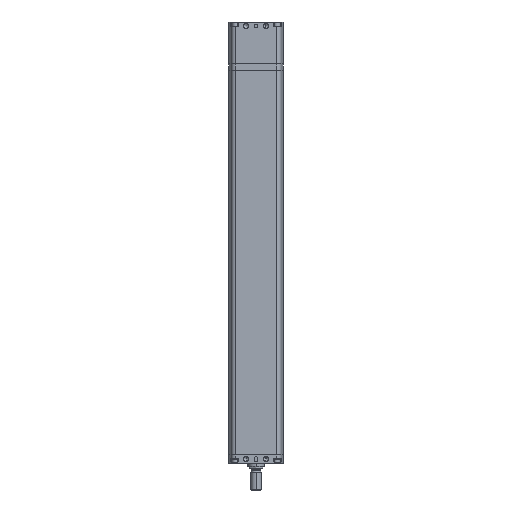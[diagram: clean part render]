
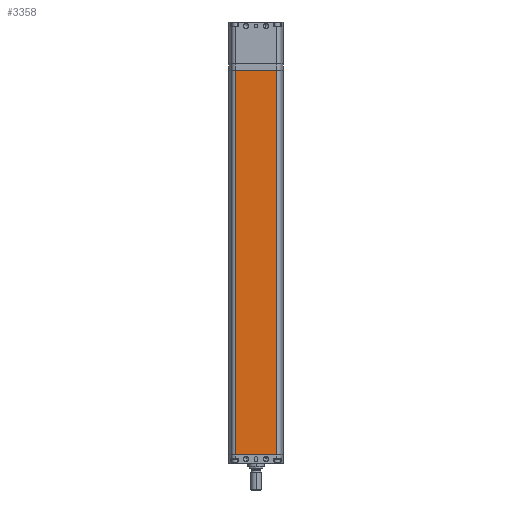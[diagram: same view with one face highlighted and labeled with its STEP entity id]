
A CAD part, front view. The second image highlights one B-rep face of the part: STEP entity #3358.
In plain terms, the highlighted planar face has unit normal (0, -1, 0).
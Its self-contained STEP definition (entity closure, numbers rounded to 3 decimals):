
#1889 = LINE ( 'NONE', #8751, #21419 ) ;
#2224 = EDGE_CURVE ( 'NONE', #4738, #20890, #10224, .T. ) ;
#2703 = VECTOR ( 'NONE', #20329, 1000. ) ;
#3099 = CARTESIAN_POINT ( 'NONE',  ( -31.138, -41., -1073. ) ) ;
#3358 = ADVANCED_FACE ( 'NONE', ( #5789 ), #12640, .T. ) ;
#3556 = DIRECTION ( 'NONE',  ( 1., 0., 0. ) ) ;
#3882 = CARTESIAN_POINT ( 'NONE',  ( -41., -41., -73. ) ) ;
#4085 = DIRECTION ( 'NONE',  ( 0., -1., 0. ) ) ;
#4633 = DIRECTION ( 'NONE',  ( 0., 0., -1. ) ) ;
#4738 = VERTEX_POINT ( 'NONE', #5821 ) ;
#5236 = LINE ( 'NONE', #3882, #16334 ) ;
#5789 = FACE_OUTER_BOUND ( 'NONE', #19318, .T. ) ;
#5821 = CARTESIAN_POINT ( 'NONE',  ( 31.138, -41., -651. ) ) ;
#7571 = EDGE_CURVE ( 'NONE', #18393, #4738, #1889, .T. ) ;
#8657 = ORIENTED_EDGE ( 'NONE', *, *, #2224, .T. ) ;
#8751 = CARTESIAN_POINT ( 'NONE',  ( -41., -41., -651. ) ) ;
#10224 = LINE ( 'NONE', #13486, #11465 ) ;
#10979 = CARTESIAN_POINT ( 'NONE',  ( -31.138, -41., -73. ) ) ;
#11465 = VECTOR ( 'NONE', #21999, 1000. ) ;
#11697 = CARTESIAN_POINT ( 'NONE',  ( -31.138, -41., -651. ) ) ;
#12004 = VERTEX_POINT ( 'NONE', #10979 ) ;
#12640 = PLANE ( 'NONE',  #16253 ) ;
#12842 = CARTESIAN_POINT ( 'NONE',  ( 31.138, -41., -73. ) ) ;
#13486 = CARTESIAN_POINT ( 'NONE',  ( 31.138, -41., -1073. ) ) ;
#14604 = ORIENTED_EDGE ( 'NONE', *, *, #17553, .F. ) ;
#16253 = AXIS2_PLACEMENT_3D ( 'NONE', #19537, #4085, #4633 ) ;
#16334 = VECTOR ( 'NONE', #3556, 1000. ) ;
#17553 = EDGE_CURVE ( 'NONE', #12004, #20890, #5236, .T. ) ;
#18393 = VERTEX_POINT ( 'NONE', #11697 ) ;
#19089 = EDGE_CURVE ( 'NONE', #12004, #18393, #20549, .T. ) ;
#19318 = EDGE_LOOP ( 'NONE', ( #20100, #20240, #8657, #14604 ) ) ;
#19364 = DIRECTION ( 'NONE',  ( 1., 0., 0. ) ) ;
#19537 = CARTESIAN_POINT ( 'NONE',  ( -41., -41., -1073. ) ) ;
#20100 = ORIENTED_EDGE ( 'NONE', *, *, #19089, .T. ) ;
#20240 = ORIENTED_EDGE ( 'NONE', *, *, #7571, .T. ) ;
#20329 = DIRECTION ( 'NONE',  ( 0., 0., -1. ) ) ;
#20549 = LINE ( 'NONE', #3099, #2703 ) ;
#20890 = VERTEX_POINT ( 'NONE', #12842 ) ;
#21419 = VECTOR ( 'NONE', #19364, 1000. ) ;
#21999 = DIRECTION ( 'NONE',  ( 0., 0., 1. ) ) ;
